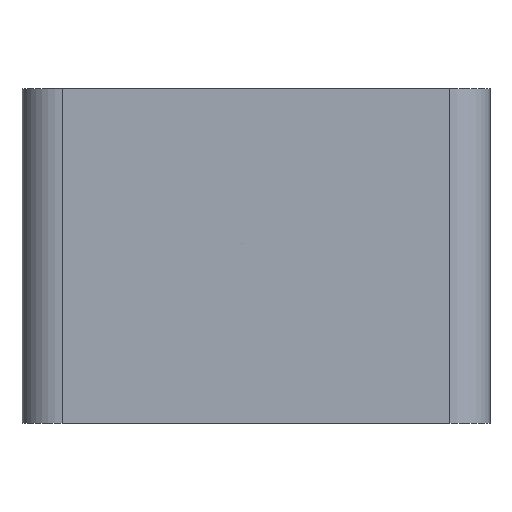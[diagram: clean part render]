
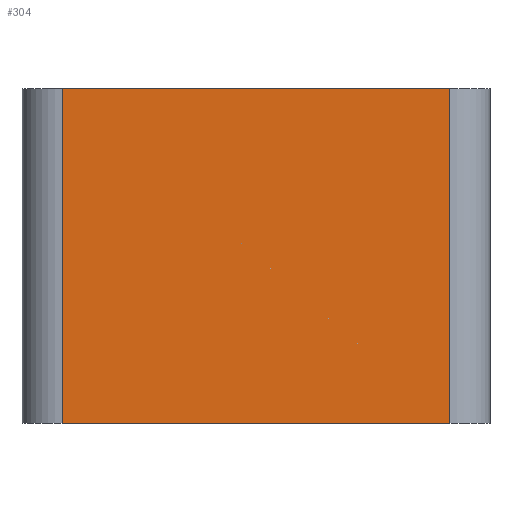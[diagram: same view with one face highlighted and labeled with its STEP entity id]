
A CAD part, front view. The second image highlights one B-rep face of the part: STEP entity #304.
In plain terms, the highlighted planar face has unit normal (0, -1, 0).
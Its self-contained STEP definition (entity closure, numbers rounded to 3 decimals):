
#173=FACE_OUTER_BOUND('',#992,.T.);
#304=ADVANCED_FACE('',(#173),#471,.T.);
#471=PLANE('',#3016);
#582=LINE('',#4308,#719);
#583=LINE('',#4389,#720);
#584=LINE('',#4392,#721);
#585=LINE('',#4393,#722);
#719=VECTOR('',#3238,1.);
#720=VECTOR('',#3243,1.);
#721=VECTOR('',#3244,1.);
#722=VECTOR('',#3245,1.);
#992=EDGE_LOOP('',(#1303,#1304,#1305,#1306));
#1303=ORIENTED_EDGE('',*,*,#2371,.T.);
#1304=ORIENTED_EDGE('',*,*,#2372,.T.);
#1305=ORIENTED_EDGE('',*,*,#2356,.T.);
#1306=ORIENTED_EDGE('',*,*,#2373,.T.);
#2078=VERTEX_POINT('',#4307);
#2079=VERTEX_POINT('',#4309);
#2093=VERTEX_POINT('',#4390);
#2094=VERTEX_POINT('',#4391);
#2356=EDGE_CURVE('',#2079,#2078,#582,.T.);
#2371=EDGE_CURVE('',#2093,#2094,#583,.T.);
#2372=EDGE_CURVE('',#2094,#2079,#584,.T.);
#2373=EDGE_CURVE('',#2078,#2093,#585,.T.);
#3016=AXIS2_PLACEMENT_3D('',#4394,#3246,#3247);
#3238=DIRECTION('',(-1.,0.,0.));
#3243=DIRECTION('',(1.,0.,0.));
#3244=DIRECTION('',(0.,0.,1.));
#3245=DIRECTION('',(0.,0.,-1.));
#3246=DIRECTION('',(0.,-1.,0.));
#3247=DIRECTION('',(0.,0.,-1.));
#4307=CARTESIAN_POINT('',(3.,0.,25.));
#4308=CARTESIAN_POINT('',(17.5,0.,25.));
#4309=CARTESIAN_POINT('',(32.,0.,25.));
#4389=CARTESIAN_POINT('',(17.5,0.,0.));
#4390=CARTESIAN_POINT('',(3.,0.,0.));
#4391=CARTESIAN_POINT('',(32.,0.,0.));
#4392=CARTESIAN_POINT('',(32.,0.,0.));
#4393=CARTESIAN_POINT('',(3.,0.,0.));
#4394=CARTESIAN_POINT('',(17.5,0.,0.));
